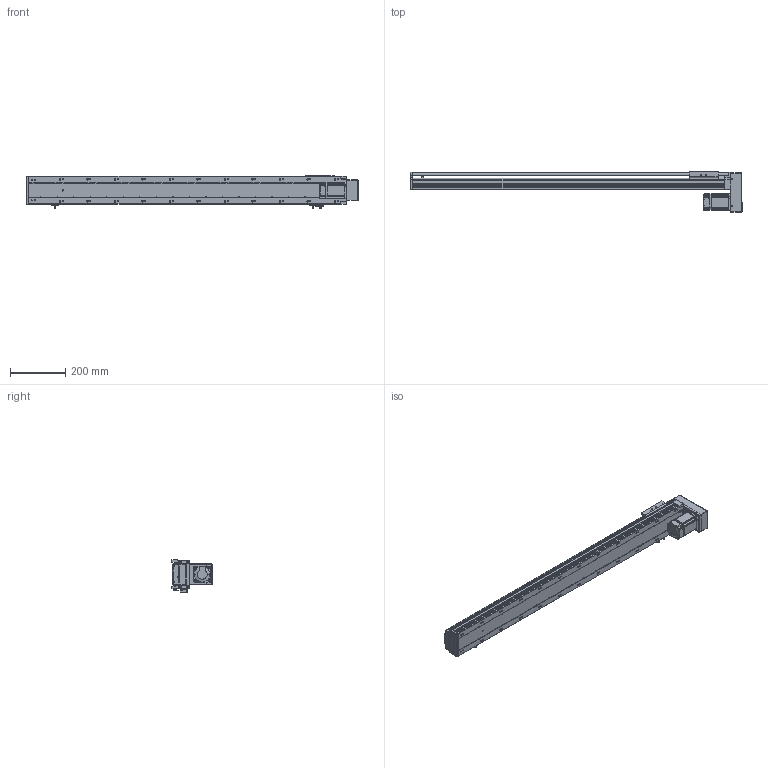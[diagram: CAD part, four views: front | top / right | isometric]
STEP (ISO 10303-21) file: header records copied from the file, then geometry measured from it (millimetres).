
FILE_DESCRIPTION (( 'STEP AP203' ), '1' );
FILE_NAME ('RY100S-L1620-950-BK(15双轨).SLDASM_950.step', '2021-03-12T06:41:34', ( '盈信电脑' ), ( '东莞市道滘镇水果街19号' ), 'SwSTEP 2.0', 'SolidWorks 2012', '' );
FILE_SCHEMA (( 'CONFIG_CONTROL_DESIGN' ));
Products named in the file (15): RY100S狟殏萇儂欶(15邧寢); RY100S下折电机安装板（15双轨）; RY100S-L1620-950-BK(15邧寢).SLDASM_950; RY100S-狟殏萇儂傷-BK(15邧寢)_350; 1; 侂狟200W萇儂; RY100綴裔啣; RY100S转折电机端支撑座(15双轨); RY100俋离覜茼え; 滅袉蝶18-24; 滅袉蝶18-10; RY100S-950-RK转折型材底座(15双轨)_950; RY100S-950-RK转折型材上盖(15双轨)_950; RY100S铝滑块（15双轨单滑块）; 覜茼ん672
Assembly tree (17 placements, depth 4):
  RY100S-L1620-950-BK(15邧寢).SLDASM_950
    RY100S-950-RK转折型材底座(15双轨)_950
    RY100S-950-RK转折型材上盖(15双轨)_950
    RY100S铝滑块（15双轨单滑块）
    覜茼ん672  x3
    滅袉蝶18-10  x2
    RY100俋离覜茼え
    RY100S转折电机端支撑座(15双轨)
    滅袉蝶18-24
    RY100綴裔啣
    RY100S-狟殏萇儂傷-BK(15邧寢)_350
      侂狟200W萇儂
        1
      RY100S下折电机安装板（15双轨）
      RY100S狟殏萇儂欶(15邧寢)
Bounding box: 1207 x 147 x 117.2 mm (x, y, z)
Volume: 2382524 mm3; surface area: 1034548.8 mm2
Topology: 15 solids, 15 shells, 2466 faces, 6943 edges, 4510 vertices
Faces by surface type: plane 1278, cylinder 963, cone 137, bspline 88
Entity records: 81653 total; most frequent: CARTESIAN_POINT 21040, ORIENTED_EDGE 12694, DIRECTION 11824, EDGE_CURVE 6347, VERTEX_POINT 4178, AXIS2_PLACEMENT_3D 3983, VECTOR 3858, LINE 3858
